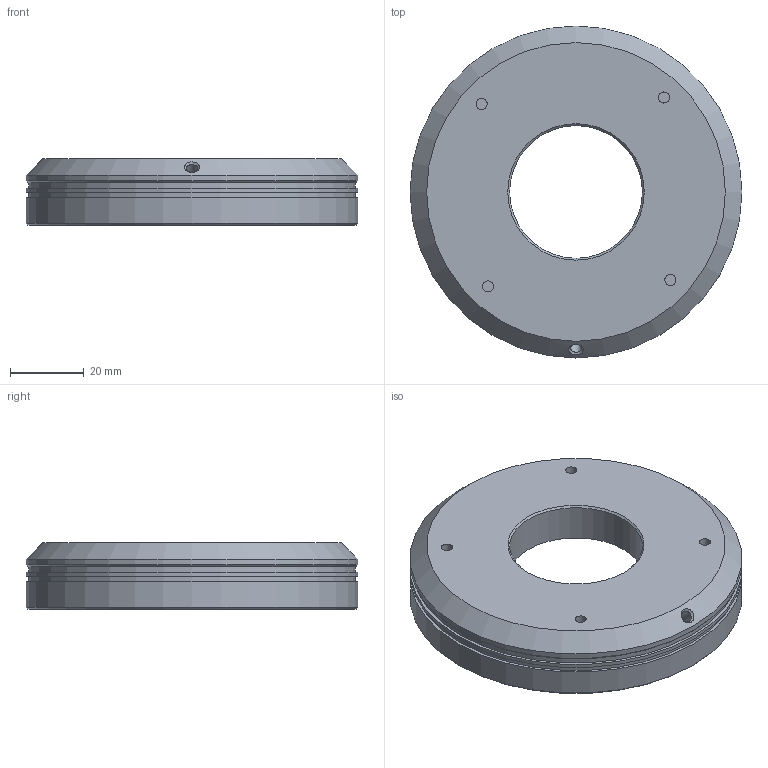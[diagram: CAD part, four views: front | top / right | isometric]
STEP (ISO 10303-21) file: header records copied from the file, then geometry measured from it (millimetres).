
FILE_DESCRIPTION((''),'2;1');
FILE_NAME('D:\上海创波-20181114\2-三维图纸\1-常用光源\WLDR系列\WLDR1系列-xxAGxx\WLDR-15AG90-.stp','2020-02-06T21:25:58',('Administrator'),(''),'Autodesk Inventor 2010','Autodesk Inventor 2010','');
FILE_SCHEMA(('AUTOMOTIVE_DESIGN { 1 0 10303 214 1 1 1 1 }'));
Length unit declared in the file: millimetre
Products named in the file (1): 零件2
Bounding box: 90 x 90 x 18 mm (x, y, z)
Volume: 47504.3 mm3; surface area: 42346.5 mm2
Topology: 2 solids, 2 shells, 1236 faces, 3507 edges, 2196 vertices
Faces by surface type: plane 568, cylinder 446, sphere 210, cone 11, bspline 1
Full cylindrical faces by diameter (mm): 1 x5, 2 x4, 3 x215, 36 x1, 39 x1, 42 x1, 81 x1, 83 x1, 85 x1, 88 x1, 88.5 x2, 90 x3
Entity records: 38271 total; most frequent: CARTESIAN_POINT 10596, DIRECTION 5308, ORIENTED_EDGE 5170, EDGE_CURVE 2585, AXIS2_PLACEMENT_3D 2171, EDGE_LOOP 1807, VERTEX_POINT 1743, STYLED_ITEM 1237
